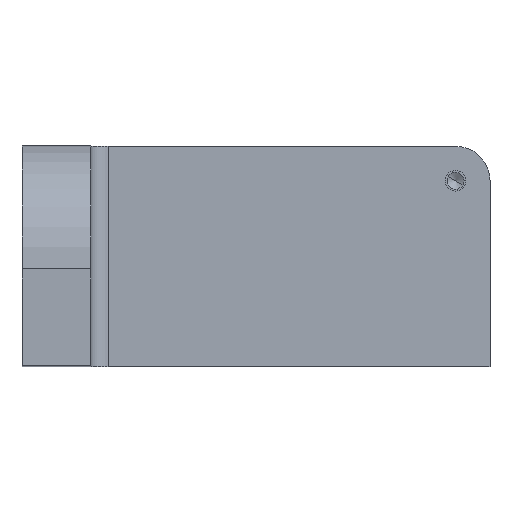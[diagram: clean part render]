
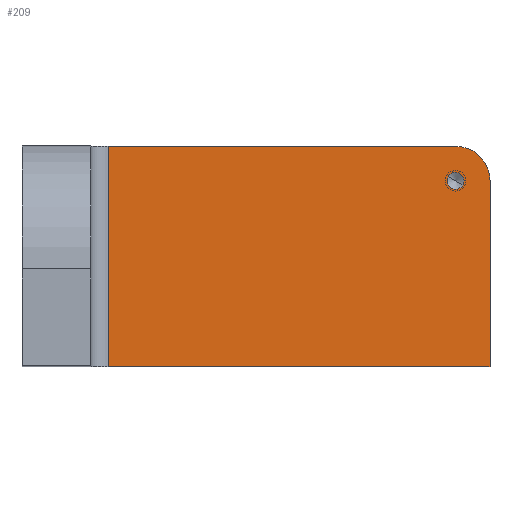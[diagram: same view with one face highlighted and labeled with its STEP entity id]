
A CAD part, top view. The second image highlights one B-rep face of the part: STEP entity #209.
In plain terms, the highlighted planar face has unit normal (0, 0, 1).
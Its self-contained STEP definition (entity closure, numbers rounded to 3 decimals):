
#144=CARTESIAN_POINT('Axis2P3D Location',(0.,0.,20.)) ;
#149=CARTESIAN_POINT('Line Origine',(80.5,0.,20.)) ;
#153=CARTESIAN_POINT('Vertex',(25.,0.,20.)) ;
#155=CARTESIAN_POINT('Vertex',(136.,0.,20.)) ;
#158=CARTESIAN_POINT('Line Origine',(136.,27.,20.)) ;
#162=CARTESIAN_POINT('Vertex',(136.,54.,20.)) ;
#165=CARTESIAN_POINT('Axis2P3D Location',(126.,54.,20.)) ;
#169=CARTESIAN_POINT('Vertex',(126.,64.,20.)) ;
#172=CARTESIAN_POINT('Line Origine',(75.5,64.,20.)) ;
#176=CARTESIAN_POINT('Vertex',(25.,64.,20.)) ;
#179=CARTESIAN_POINT('Line Origine',(25.,32.,20.)) ;
#191=CARTESIAN_POINT('Axis2P3D Location',(126.,54.,20.)) ;
#195=CARTESIAN_POINT('Vertex',(123.842,55.179,20.)) ;
#197=CARTESIAN_POINT('Vertex',(128.158,52.821,20.)) ;
#200=CARTESIAN_POINT('Axis2P3D Location',(126.,54.,20.)) ;
#145=DIRECTION('Axis2P3D Direction',(0.,0.,1.)) ;
#146=DIRECTION('Axis2P3D XDirection',(1.,0.,0.)) ;
#150=DIRECTION('Vector Direction',(1.,0.,0.)) ;
#159=DIRECTION('Vector Direction',(0.,1.,0.)) ;
#166=DIRECTION('Axis2P3D Direction',(0.,0.,1.)) ;
#173=DIRECTION('Vector Direction',(-1.,0.,0.)) ;
#180=DIRECTION('Vector Direction',(0.,-1.,0.)) ;
#192=DIRECTION('Axis2P3D Direction',(0.,0.,1.)) ;
#201=DIRECTION('Axis2P3D Direction',(0.,0.,1.)) ;
#147=AXIS2_PLACEMENT_3D('Plane Axis2P3D',#144,#145,#146) ;
#167=AXIS2_PLACEMENT_3D('Circle Axis2P3D',#165,#166,$) ;
#193=AXIS2_PLACEMENT_3D('Circle Axis2P3D',#191,#192,$) ;
#202=AXIS2_PLACEMENT_3D('Circle Axis2P3D',#200,#201,$) ;
#185=ORIENTED_EDGE('',*,*,#157,.T.) ;
#186=ORIENTED_EDGE('',*,*,#164,.T.) ;
#187=ORIENTED_EDGE('',*,*,#171,.T.) ;
#188=ORIENTED_EDGE('',*,*,#178,.T.) ;
#189=ORIENTED_EDGE('',*,*,#183,.F.) ;
#206=ORIENTED_EDGE('',*,*,#199,.F.) ;
#207=ORIENTED_EDGE('',*,*,#204,.F.) ;
#208=FACE_BOUND('',#205,.T.) ;
#151=VECTOR('Line Direction',#150,1.) ;
#160=VECTOR('Line Direction',#159,1.) ;
#174=VECTOR('Line Direction',#173,1.) ;
#181=VECTOR('Line Direction',#180,1.) ;
#209=ADVANCED_FACE('PartBody',(#190,#208),#148,.T.) ;
#168=CIRCLE('generated circle',#167,10.) ;
#194=CIRCLE('generated circle',#193,2.459) ;
#203=CIRCLE('generated circle',#202,2.459) ;
#157=EDGE_CURVE('',#154,#156,#152,.T.) ;
#164=EDGE_CURVE('',#156,#163,#161,.T.) ;
#171=EDGE_CURVE('',#163,#170,#168,.T.) ;
#178=EDGE_CURVE('',#170,#177,#175,.T.) ;
#183=EDGE_CURVE('',#154,#177,#182,.F.) ;
#199=EDGE_CURVE('',#196,#198,#194,.T.) ;
#204=EDGE_CURVE('',#198,#196,#203,.T.) ;
#184=EDGE_LOOP('',(#185,#186,#187,#188,#189)) ;
#205=EDGE_LOOP('',(#206,#207)) ;
#190=FACE_OUTER_BOUND('',#184,.T.) ;
#152=LINE('Line',#149,#151) ;
#161=LINE('Line',#158,#160) ;
#175=LINE('Line',#172,#174) ;
#182=LINE('Line',#179,#181) ;
#148=PLANE('',#147) ;
#154=VERTEX_POINT('',#153) ;
#156=VERTEX_POINT('',#155) ;
#163=VERTEX_POINT('',#162) ;
#170=VERTEX_POINT('',#169) ;
#177=VERTEX_POINT('',#176) ;
#196=VERTEX_POINT('',#195) ;
#198=VERTEX_POINT('',#197) ;
